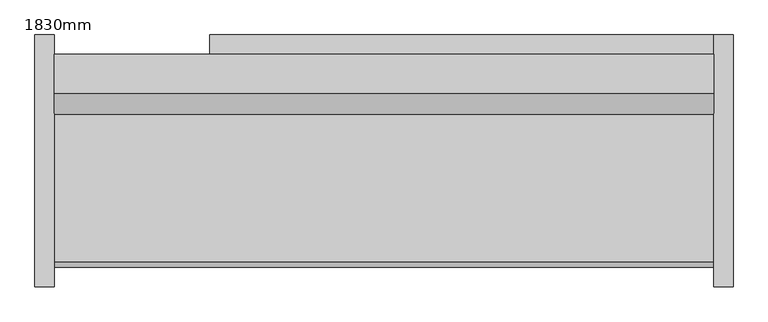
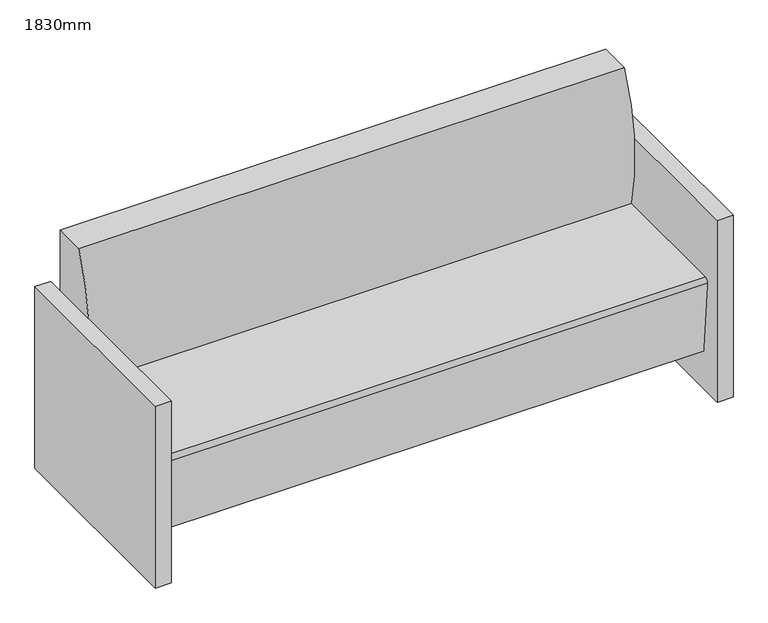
"""IFC4 building model written with IfcOpenShell, lengths in millimetres: furniture geometry, 沙發 (2) : 1830mm."""

from ifc_helpers import new_model, si_unit, point, frame, frame_2d, origin, origin_with_axes, place, context, project, spatial, polyline, circle_curve, trimmed, segment, composite_curve, outline, extrude, source, transform, mapped, element, save


def furniture_1830mm_a44c643f(model_context):
    return source(origin(), model_context, "Body", "SweptSolid", [
        extrude(outline(polyline([(-386.6295082, 425.5540984), (-386.6295082, 476.3540984), (934.5704918, 476.3540984), (934.5704918, 425.5540984), (-386.6295082, 425.5540984)])), frame((0.0, 0.0, 457.2), z_axis=(0.0, 0.0, 1.0), x_axis=(1.0, 0.0, 0.0)), (0.0, 0.0, 1.0), 127.0),
        extrude(outline(polyline([(-386.6295082, 425.5540984), (-386.6295082, 476.3540984), (934.5704918, 476.3540984), (934.5704918, 425.5540984), (-386.6295082, 425.5540984)])), frame((0.0, 0.0, 266.7), z_axis=(0.0, 0.0, 1.0), x_axis=(1.0, 0.0, 0.0)), (0.0, 0.0, 1.0), 127.0),
        extrude(outline(polyline([(-386.6295082, 425.5540984), (-386.6295082, 476.3540984), (934.5704918, 476.3540984), (934.5704918, 425.5540984), (-386.6295082, 425.5540984)])), frame((0.0, 0.0, 76.2), z_axis=(0.0, 0.0, 1.0), x_axis=(1.0, 0.0, 0.0)), (0.0, 0.0, 1.0), 127.0),
        extrude(outline(composite_curve([segment(trimmed(circle_curve(frame_2d((926.517198, 542.5300036)), 660.4), [point((286.1764935, 381.0))], [point((323.9540984, 812.8))], False, "CARTESIAN"), True, "CONTINUOUS"), segment(polyline([(323.9540984, 812.8), (425.5540984, 812.8), (425.5540984, 127.9665467), (-111.108343, 127.9665467), (-132.0379563, 367.1931221)]), True, "CONTINUOUS"), segment(trimmed(circle_curve(frame_2d((-119.3862837, 368.3)), 12.7), [point((-132.0379563, 367.1931221))], [point((-119.3862837, 381.0))], False, "CARTESIAN"), True, "CONTINUOUS"), segment(polyline([(-119.3862837, 381.0), (286.1764935, 381.0)]), True, "CONTINUOUS")], self_intersect=False)), frame((-793.8295082, 0.0, 0.0), z_axis=(1.0, 0.0, 0.0), x_axis=(0.0, 1.0, 0.0)), (0.0, 0.0, 1.0), 1728.4),
        extrude(outline(polyline([(-844.6295082, 476.3540984), (-793.8295082, 476.3540984), (-793.8295082, -184.0459016), (-844.6295082, -184.0459016), (-844.6295082, 476.3540984)])), origin_with_axes(), (0.0, 0.0, 1.0), 609.6),
        extrude(outline(polyline([(985.3704918, 476.3540984), (985.3704918, -184.0459016), (934.5704918, -184.0459016), (934.5704918, 476.3540984), (985.3704918, 476.3540984)])), origin_with_axes(), (0.0, 0.0, 1.0), 609.6),
    ])


if __name__ == "__main__":
    model = new_model("IFC4")
    model_context = context("Model", 3, world=origin())
    ifc_project = project(units=[si_unit("LENGTHUNIT", "METRE", prefix="MILLI")], contexts=[model_context])
    site = spatial("IfcSite", under=ifc_project)
    building = spatial("IfcBuilding", under=site)
    placement = place(None, origin())
    furniture_1830mm_shape = furniture_1830mm_a44c643f(model_context)
    element("IfcFurniture", 1, ObjectType="沙發 (2) : 1830mm", at=placement, inside=building, context=model_context, shape_type="MappedRepresentation", body=[
        mapped(furniture_1830mm_shape, transform((0.0, 0.0, 0.0), x_axis=(1.0, 0.0, 0.0), y_axis=(0.0, 1.0, 0.0), z_axis=(0.0, 0.0, 1.0))),
    ])
    save(model, "model.ifc")
